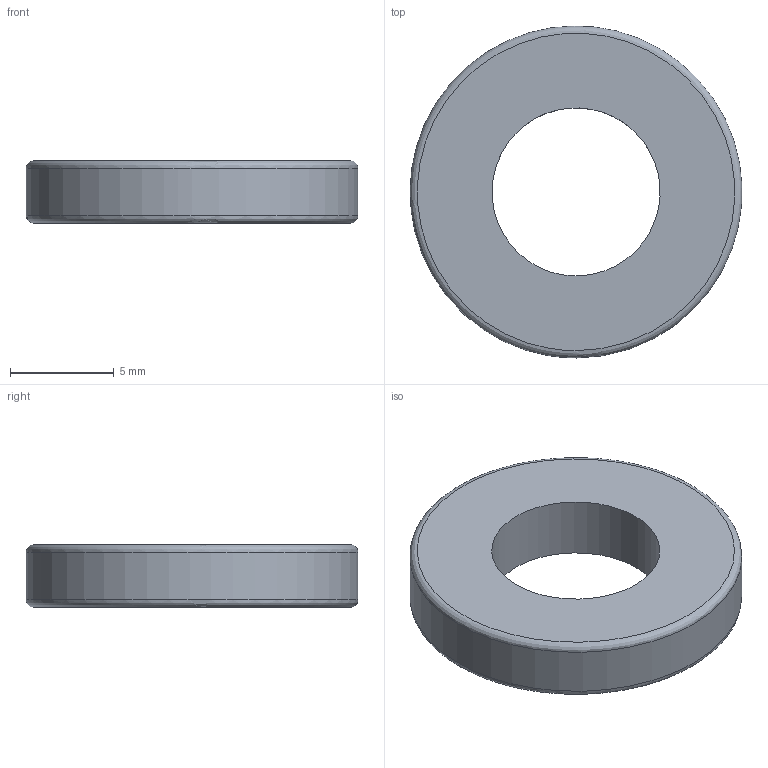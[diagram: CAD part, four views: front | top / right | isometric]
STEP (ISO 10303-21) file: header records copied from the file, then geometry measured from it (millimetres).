
FILE_DESCRIPTION ((), '1');
FILE_NAME ('H:\Energy Science\CAD Projects\Generator Research\Tesla_v1\Fittings\M8 Fittings\M8 Washer\M8 Washer.stp', '2015-10-15T23:13:26', ('Unknown'), ('Unknown'), 'HarmonyWare STEP v1.7.11', 'HarmonyWare Translators', '');
FILE_SCHEMA (('CONFIG_CONTROL_DESIGN'));
Length unit declared in the file: millimetre
Products named in the file (1): product-name
Bounding box: 15.99 x 16 x 3 mm (x, y, z)
Volume: 449.5 mm3; surface area: 511.4 mm2
Topology: 1 solids, 1 shells, 6 faces, 10 edges, 6 vertices
Faces by surface type: bspline 6
Entity records: 329 total; most frequent: CARTESIAN_POINT 168, ORIENTED_EDGE 20, EDGE_CURVE 10, EDGE_LOOP 8, PERSON 8, ORGANIZATION 8, PERSON_AND_ORGANIZATION 8, VERTEX_POINT 6
